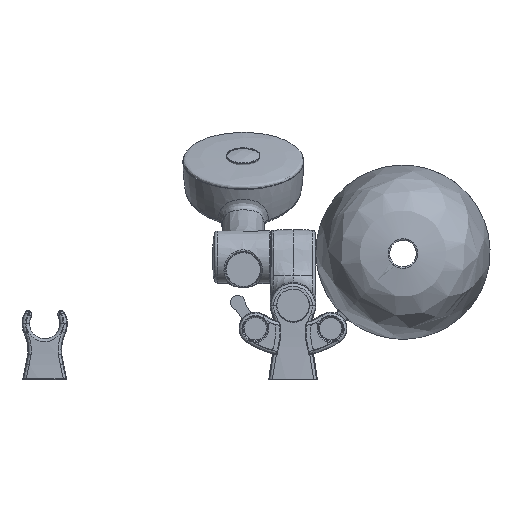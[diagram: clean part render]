
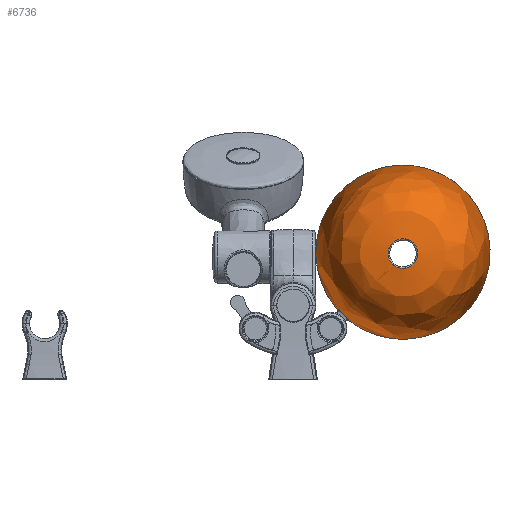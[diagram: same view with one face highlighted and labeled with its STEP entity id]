
A CAD part, front view. The second image highlights one B-rep face of the part: STEP entity #6736.
In plain terms, the highlighted free-form (B-spline) face has degree [3, 3] with [4, 7] control points.
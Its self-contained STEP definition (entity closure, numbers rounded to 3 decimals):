
#820 = ORIENTED_EDGE ( 'NONE', *, *, #28723, .T. ) ;
#2689 = CARTESIAN_POINT ( 'NONE',  ( -51.635, -292.938, 124.936 ) ) ;
#2910 = CARTESIAN_POINT ( 'NONE',  ( 32.845, -397.203, 200.745 ) ) ;
#3252 = CARTESIAN_POINT ( 'NONE',  ( 36.642, -316.774, 41.621 ) ) ;
#5270 = EDGE_CURVE ( 'NONE', #46183, #41887, #62642, .T. ) ;
#6736 = ADVANCED_FACE ( 'NONE', ( #33055, #32269 ), #59931, .F. ) ;
#6885 = CARTESIAN_POINT ( 'NONE',  ( 34.223, -316.793, 43.828 ) ) ;
#6900 = CARTESIAN_POINT ( 'NONE',  ( 37.918, -316.765, 40.596 ) ) ;
#7668 = CARTESIAN_POINT ( 'NONE',  ( 34.733, -367.551, 43.921 ) ) ;
#7874 = CARTESIAN_POINT ( 'NONE',  ( 36.675, -395.85, 45.714 ) ) ;
#8649 = CARTESIAN_POINT ( 'NONE',  ( 30.119, -292.262, 47.459 ) ) ;
#9462 = VERTEX_POINT ( 'NONE', #26385 ) ;
#10842 = AXIS2_PLACEMENT_3D ( 'NONE', #47517, #18494, #52341 ) ;
#11936 = B_SPLINE_CURVE_WITH_KNOTS ( 'NONE', 3,
 ( #8649, #37842, #13629, #47535, #18511, #52356 ),
 .UNSPECIFIED., .F., .F.,
 ( 4, 2, 4 ),
 ( 0., 0.012, 0.025 ),
 .UNSPECIFIED. ) ;
#12665 = CARTESIAN_POINT ( 'NONE',  ( 197.735, -367.586, 47.948 ) ) ;
#12869 = CARTESIAN_POINT ( 'NONE',  ( 82.09, -397.216, 64.331 ) ) ;
#13629 = CARTESIAN_POINT ( 'NONE',  ( 30.318, -300.45, 47.392 ) ) ;
#13811 = EDGE_CURVE ( 'NONE', #32688, #46183, #62263, .T. ) ;
#14582 = CARTESIAN_POINT ( 'NONE',  ( 37.875, -312.671, 40.484 ) ) ;
#17556 = EDGE_LOOP ( 'NONE', ( #47800, #46353, #46291, #44907, #820 ) ) ;
#17564 = CARTESIAN_POINT ( 'NONE',  ( 30.706, -368.973, 206.917 ) ) ;
#17765 = CARTESIAN_POINT ( 'NONE',  ( 81.389, -397.463, 92.682 ) ) ;
#18337 = CARTESIAN_POINT ( 'NONE',  ( 30.812, -316.824, 47.359 ) ) ;
#18494 = DIRECTION ( 'NONE',  ( 0., 1., 0.009 ) ) ;
#18511 = CARTESIAN_POINT ( 'NONE',  ( 30.667, -312.731, 47.345 ) ) ;
#22421 = CARTESIAN_POINT ( 'NONE',  ( 34.733, -367.551, 43.921 ) ) ;
#22630 = CARTESIAN_POINT ( 'NONE',  ( 53.038, -397.457, 91.981 ) ) ;
#22895 = EDGE_LOOP ( 'NONE', ( #49979 ) ) ;
#23190 = CARTESIAN_POINT ( 'NONE',  ( 33.037, -316.803, 44.957 ) ) ;
#24820 =( BOUNDED_CURVE ( )  B_SPLINE_CURVE ( 3, ( #18337, #47352, #23190, #57006 ),
 .UNSPECIFIED., .F., .T. ) 
 B_SPLINE_CURVE_WITH_KNOTS ( ( 4, 4 ),
 ( 0., 1. ),
 .UNSPECIFIED. ) 
 CURVE ( )  GEOMETRIC_REPRESENTATION_ITEM ( )  RATIONAL_B_SPLINE_CURVE ( ( 1., 0.999, 0.999, 1. ) ) 
 REPRESENTATION_ITEM ( '' )  );
#26065 = CARTESIAN_POINT ( 'NONE',  ( 74.476, -292.601, 86.334 ) ) ;
#26102 = CIRCLE ( 'NONE', #10842, 10.027 ) ;
#26385 = CARTESIAN_POINT ( 'NONE',  ( 67.564, -397.336, 78.156 ) ) ;
#26773 = VERTEX_POINT ( 'NONE', #27486 ) ;
#27103 = CARTESIAN_POINT ( 'NONE',  ( 200.588, -292.264, 47.731 ) ) ;
#27197 = EDGE_CURVE ( 'NONE', #26773, #32688, #24820, .T. ) ;
#27317 = CARTESIAN_POINT ( 'NONE',  ( 116.108, -395.19, -29.886 ) ) ;
#27486 = CARTESIAN_POINT ( 'NONE',  ( 30.812, -316.824, 47.359 ) ) ;
#28723 = EDGE_CURVE ( 'NONE', #41887, #59901, #35727, .T. ) ;
#29208 = CARTESIAN_POINT ( 'NONE',  ( 37.832, -300.388, 40.239 ) ) ;
#30955 = DIRECTION ( 'NONE',  ( -0.689, 0.006, -0.724 ) ) ;
#32003 = CARTESIAN_POINT ( 'NONE',  ( 29.692, -293.684, 210.381 ) ) ;
#32201 = CARTESIAN_POINT ( 'NONE',  ( 112.278, -396.543, 125.145 ) ) ;
#32269 = FACE_OUTER_BOUND ( 'NONE', #17556, .T. ) ;
#32688 = VERTEX_POINT ( 'NONE', #6885 ) ;
#33055 = FACE_OUTER_BOUND ( 'NONE', #22895, .T. ) ;
#34091 = CARTESIAN_POINT ( 'NONE',  ( 37.838, -292.198, 40.113 ) ) ;
#35727 = CIRCLE ( 'NONE', #56458, 58.982 ) ;
#36596 = CARTESIAN_POINT ( 'NONE',  ( 34.223, -316.793, 43.828 ) ) ;
#36868 = CARTESIAN_POINT ( 'NONE',  ( 33.813, -292.229, 43.611 ) ) ;
#37082 = CARTESIAN_POINT ( 'NONE',  ( -42.758, -396.51, 121.315 ) ) ;
#37342 = EDGE_CURVE ( 'NONE', #59901, #26773, #11936, .T. ) ;
#37438 = CARTESIAN_POINT ( 'NONE',  ( 37.918, -316.765, 40.596 ) ) ;
#37842 = CARTESIAN_POINT ( 'NONE',  ( 30.216, -296.356, 47.423 ) ) ;
#41728 = CARTESIAN_POINT ( 'NONE',  ( 118.247, -366.857, -35.564 ) ) ;
#41887 = VERTEX_POINT ( 'NONE', #45864 ) ;
#41944 = CARTESIAN_POINT ( 'NONE',  ( 67.564, -397.336, 78.156 ) ) ;
#43636 = CARTESIAN_POINT ( 'NONE',  ( 37.854, -308.577, 40.395 ) ) ;
#44191 = EDGE_CURVE ( 'NONE', #9462, #9462, #26102, .T. ) ;
#44907 = ORIENTED_EDGE ( 'NONE', *, *, #5270, .T. ) ;
#45864 = CARTESIAN_POINT ( 'NONE',  ( 37.838, -292.198, 40.113 ) ) ;
#46183 = VERTEX_POINT ( 'NONE', #6900 ) ;
#46291 = ORIENTED_EDGE ( 'NONE', *, *, #13811, .T. ) ;
#46353 = ORIENTED_EDGE ( 'NONE', *, *, #27197, .T. ) ;
#46579 = CARTESIAN_POINT ( 'NONE',  ( 114.22, -368.279, 127.432 ) ) ;
#46785 = CARTESIAN_POINT ( 'NONE',  ( 95.915, -397.343, 78.857 ) ) ;
#47352 = CARTESIAN_POINT ( 'NONE',  ( 31.899, -316.813, 46.135 ) ) ;
#47517 = CARTESIAN_POINT ( 'NONE',  ( 74.476, -397.4, 85.419 ) ) ;
#47535 = CARTESIAN_POINT ( 'NONE',  ( 30.543, -308.637, 47.353 ) ) ;
#47800 = ORIENTED_EDGE ( 'NONE', *, *, #37342, .T. ) ;
#47903 = CARTESIAN_POINT ( 'NONE',  ( 30.119, -292.262, 47.459 ) ) ;
#49979 = ORIENTED_EDGE ( 'NONE', *, *, #44191, .T. ) ;
#51134 = CARTESIAN_POINT ( 'NONE',  ( 35.409, -316.783, 42.699 ) ) ;
#51409 = CARTESIAN_POINT ( 'NONE',  ( -48.782, -368.244, 123.405 ) ) ;
#51619 = CARTESIAN_POINT ( 'NONE',  ( 66.863, -397.584, 106.507 ) ) ;
#52341 = DIRECTION ( 'NONE',  ( -0.689, 0.006, -0.724 ) ) ;
#52356 = CARTESIAN_POINT ( 'NONE',  ( 30.812, -316.824, 47.359 ) ) ;
#56029 = CARTESIAN_POINT ( 'NONE',  ( 119.261, -291.519, -37.713 ) ) ;
#56238 = CARTESIAN_POINT ( 'NONE',  ( 36.675, -395.85, 45.714 ) ) ;
#56439 = CARTESIAN_POINT ( 'NONE',  ( 67.564, -397.336, 78.156 ) ) ;
#56458 = AXIS2_PLACEMENT_3D ( 'NONE', #26065, #59861, #30955 ) ;
#57006 = CARTESIAN_POINT ( 'NONE',  ( 34.223, -316.793, 43.828 ) ) ;
#58120 = CARTESIAN_POINT ( 'NONE',  ( 37.918, -316.765, 40.596 ) ) ;
#59861 = DIRECTION ( 'NONE',  ( 0., -1., -0.009 ) ) ;
#59901 = VERTEX_POINT ( 'NONE', #47903 ) ;
#59931 =( BOUNDED_SURFACE ( )  B_SPLINE_SURFACE ( 3, 3, ( 
 ( #60681, #56029, #27103, #60884, #32003, #2689, #36868 ),
 ( #7668, #41728, #12665, #46579, #17564, #51409, #22421 ),
 ( #56238, #27317, #61093, #32201, #2910, #37082, #7874 ),
 ( #41944, #12869, #46785, #17765, #51619, #22630, #56439 ) ),
 .UNSPECIFIED., .F., .T., .F. ) 
 B_SPLINE_SURFACE_WITH_KNOTS ( ( 4, 4 ),
 ( 4, 3, 4 ),
 ( 0.004, 0.993 ),
 ( 0., 0.5, 1. ),
 .UNSPECIFIED. ) 
 GEOMETRIC_REPRESENTATION_ITEM ( )  RATIONAL_B_SPLINE_SURFACE ( (
 ( 1., 0.333, 0.333, 1., 0.333, 0.333, 1.),
 ( 1., 0.333, 0.333, 1., 0.333, 0.333, 1.),
 ( 1., 0.333, 0.333, 1., 0.333, 0.333, 1.),
 ( 1., 0.333, 0.333, 1., 0.333, 0.333, 1.) ) ) 
 REPRESENTATION_ITEM ( '' )  SURFACE ( )  );
#60681 = CARTESIAN_POINT ( 'NONE',  ( 33.813, -292.229, 43.611 ) ) ;
#60884 = CARTESIAN_POINT ( 'NONE',  ( 115.14, -292.974, 129.056 ) ) ;
#61093 = CARTESIAN_POINT ( 'NONE',  ( 191.711, -395.883, 49.545 ) ) ;
#62263 =( BOUNDED_CURVE ( )  B_SPLINE_CURVE ( 3, ( #36596, #51134, #3252, #37438 ),
 .UNSPECIFIED., .F., .F. ) 
 B_SPLINE_CURVE_WITH_KNOTS ( ( 4, 4 ),
 ( 0., 1. ),
 .UNSPECIFIED. ) 
 CURVE ( )  GEOMETRIC_REPRESENTATION_ITEM ( )  RATIONAL_B_SPLINE_CURVE ( ( 1., 0.999, 0.999, 1. ) ) 
 REPRESENTATION_ITEM ( '' )  );
#62642 = B_SPLINE_CURVE_WITH_KNOTS ( 'NONE', 3,
 ( #58120, #14582, #43636, #29208, #62982, #34091 ),
 .UNSPECIFIED., .F., .F.,
 ( 4, 2, 4 ),
 ( -0.001, 0.012, 0.024 ),
 .UNSPECIFIED. ) ;
#62982 = CARTESIAN_POINT ( 'NONE',  ( 37.833, -296.293, 40.174 ) ) ;
